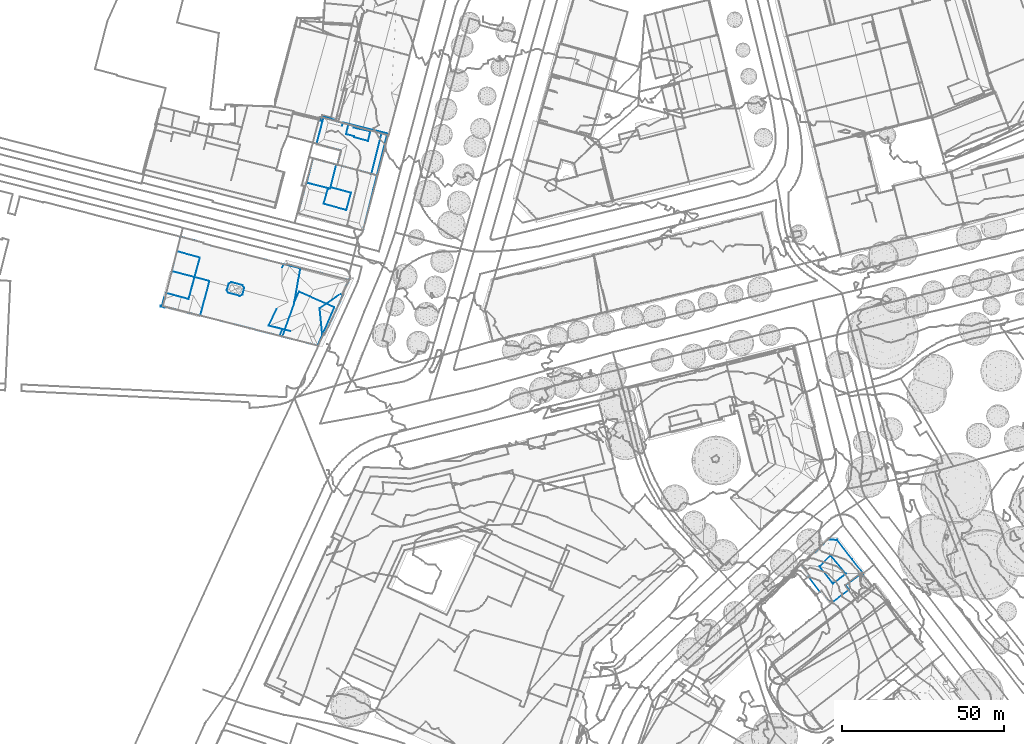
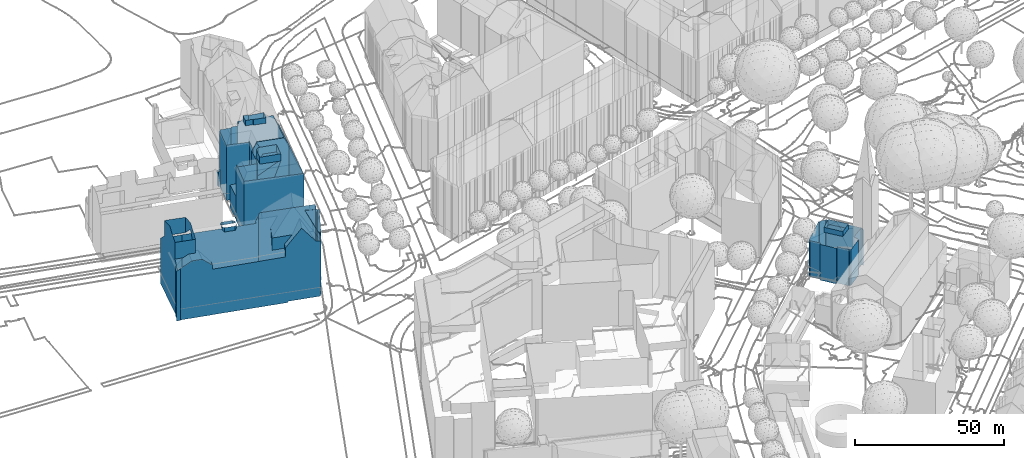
# Not in any storey, part 30 of 477: 4 walls.
"""IFC4 building model written with IfcOpenShell, lengths in metres."""

from ifc_helpers import new_model, si_unit, frame, origin_with_axes, place, context, subcontext, project, spatial, polygons, element, save


model = new_model("IFC4")

# Units and contexts
model_context = context("Model", 3, precision=1e-05, world=origin_with_axes())
body_context = subcontext(model_context, "Body", "Model", "MODEL_VIEW")
ifc_project = project(units=[si_unit("AREAUNIT", "SQUARE_METRE"), si_unit("LENGTHUNIT", "METRE")], contexts=[model_context])

# Sites, building
site_1_placement = place(None, origin_with_axes())
site_1 = spatial("IfcSite", under=ifc_project, at=site_1_placement, Name="Topoexport Site")
site_2_placement = place(site_1_placement, origin_with_axes())
site_2 = spatial("IfcSite", under=site_1, at=site_2_placement, Name="TPX_BUILDINGS")
building_1_placement = place(site_2_placement, frame((145.991732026, 258.2215160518, 530.886), z_axis=(0.0, 0.0, 1.0), x_axis=(1.0, 0.0, 0.0)))
building_1 = spatial("IfcBuilding", under=site_2, at=building_1_placement, Name="Building 154", CompositionType="ELEMENT")

# Wall
wall_1_placement = place(None, frame((145.991732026, 258.2215160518, 530.886), z_axis=(0.0, 0.0, 1.0), x_axis=(1.0, 0.0, 0.0)))
element("IfcWall", 1, at=wall_1_placement, inside=building_1, Name="Wall 0", context=body_context, shape_type="Tessellation", body=[
    polygons([(13.7259999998, -2.8378999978, 16.3534), (13.0780000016, -3.3262000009, 16.3994), (13.7259999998, -2.8378999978, 18.4752), (9.7340000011, -5.8476999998, 18.4752), (9.7340000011, -5.8476999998, 16.3984), (10.2470000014, -5.4609000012, 16.4014), (5.569000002, -0.5507999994, 16.3374), (6.2950000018, 0.1561999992, 16.3314), (5.569000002, -0.5507999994, 18.4752), (9.0309999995, 2.822300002, 18.4752), (9.0309999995, 2.822300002, 16.2155), (8.743999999, 2.5430000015, 16.3024), (9.6840000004, -5.7841999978, 16.4304), (6.2820000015, -1.4580000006, 16.3844), (5.6420000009, -0.6435999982, 16.3794), (9.4670000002, 2.2959000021, 16.4654), (12.8000000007, -1.7216999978, 16.4294), (9.1350000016, 2.697300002, 16.2485), (13.6390000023, -2.7324000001, 16.4104), (0.2190000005, -0.3838, 0.0), (0.2950000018, -0.3125, 0.0), (0.2190000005, -0.3838, 14.7896), (2.5810000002, -3.4189999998, 0.0), (2.5810000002, -3.4189999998, 14.8016), (2.1710000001, -3.7373000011, 14.6026), (2.1710000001, -3.7373000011, 0.0), (5.7950000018, -8.4600000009, 0.0), (5.7950000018, -8.4600000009, 14.6036), (5.9680000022, -8.3251999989, 4.5666), (6.2320000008, -8.120099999, 4.4236), (6.2320000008, -8.120099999, 10.517), (6.2320000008, -8.120099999, 14.8166), (6.2320000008, -8.120099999, 0.0), (0.2950000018, -0.3125, 14.8296), (0.0, 0.0, 3.6907), (0.0, 0.0, 0.0), (8.8980000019, -11.5449000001, 14.7916), (9.1539999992, -11.3466999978, 14.7946), (8.8980000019, -11.5449000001, 11.0929), (9.1539999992, -11.3466999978, 0.0), (8.8980000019, -11.5449000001, 3.6956), (8.8980000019, -11.5449000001, 0.0), (9.443, -11.7188000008, 14.6096), (9.443, -11.7188000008, 0.0), (14.557, -7.8554999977, 0.0), (14.557, -7.8554999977, 14.6396), (14.8000000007, -7.7851999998, 0.0), (14.8000000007, -7.7851999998, 14.6056), (13.7109999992, -6.4257999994, 0.0), (13.7109999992, -6.4257999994, 15.2845), (19.001000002, -3.2509999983, 3.9486), (18.7769999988, -2.9628999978, 10.723), (18.7769999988, -2.9628999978, 0.0), (19.1130000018, -3.3955000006, 0.0), (19.1130000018, -3.3955000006, 14.5476), (18.9869999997, -3.5205000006, 0.0), (18.5789999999, -2.7753999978, 0.0), (18.9869999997, -3.5205000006, 14.5446), (18.5789999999, -2.7753999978, 14.9356), (10.9620000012, 7.6942999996, 0.0), (10.9790000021, 7.6709000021, 3.6957), (10.9620000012, 7.6942999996, 14.7736), (10.8040000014, 7.5713, 0.0), (10.8040000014, 7.5713, 14.8126), (8.5329999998, 7.7754000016, 0.0), (8.8370000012, -11.4657999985, 14.8316), (8.4140000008, -10.9228999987, 14.8266), (19.0830000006, -2.7245999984, 0.0), (19.057, -2.745099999, 14.7936), (19.0830000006, -2.7245999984, 14.7816), (18.7769999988, -2.9628999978, 14.8066), (0.0, 0.0, 11.1059), (0.0500000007, 0.0469000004, 14.8386), (0.0, 0.0, 14.8126), (7.8339999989, 7.3916000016, 0.0), (8.3960000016, 7.9209000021, 7.3663), (8.3960000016, 7.9209000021, 11.069), (8.3960000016, 7.9209000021, 14.7716), (8.1720000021, 7.7098999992, 14.8376), (7.8339999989, 7.3916000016, 14.8386), (8.3960000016, 7.9209000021, 0.0), (11.4350000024, 7.0879000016, 14.8096), (10.9800000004, 7.6699000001, 14.7796), (10.9800000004, 7.6709000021, 11.084), (15.5980000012, 1.746100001, 0.0), (11.0199999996, 7.6191000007, 14.8066), (15.5980000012, 1.746100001, 14.7896), (11.4350000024, 7.0879000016, 0.0), (8.5329999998, 7.7754000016, 14.8096)], [[[3, 2, 1]], [[2, 3, 4]], [[6, 4, 5]], [[4, 6, 2]], [[9, 8, 7]], [[8, 9, 10]], [[12, 10, 11]], [[10, 12, 8]], [[4, 13, 5]], [[13, 4, 14]], [[14, 9, 15]], [[9, 14, 4]], [[7, 15, 9]], [[10, 16, 11]], [[16, 10, 17]], [[18, 11, 16]], [[17, 3, 19]], [[3, 17, 10]], [[1, 19, 3]], [[22, 21, 20]], [[24, 22, 23]], [[22, 20, 23]], [[26, 25, 24]], [[24, 23, 26]], [[28, 25, 27]], [[27, 25, 26]], [[30, 28, 29]], [[32, 28, 31]], [[33, 30, 29]], [[27, 29, 28]], [[29, 27, 33]], [[35, 21, 34]], [[21, 35, 36]], [[39, 38, 37]], [[41, 40, 39]], [[41, 42, 40]], [[44, 43, 40]], [[46, 44, 45]], [[44, 46, 43]], [[48, 45, 47]], [[50, 48, 49]], [[53, 52, 51]], [[55, 54, 51]], [[51, 54, 53]], [[58, 57, 56]], [[54, 55, 58]], [[56, 54, 58]], [[59, 49, 57]], [[62, 61, 60]], [[64, 60, 63]], [[64, 63, 65]], [[37, 66, 39]], [[41, 39, 31]], [[67, 39, 66]], [[67, 32, 31]], [[41, 30, 42]], [[41, 31, 30]], [[30, 33, 42]], [[39, 67, 31]], [[53, 68, 52]], [[70, 69, 52]], [[71, 52, 69]], [[70, 52, 68]], [[74, 73, 72]], [[36, 35, 75]], [[76, 35, 72]], [[77, 72, 73]], [[80, 79, 78]], [[78, 77, 80]], [[77, 76, 72]], [[75, 35, 76]], [[75, 76, 81]], [[73, 80, 77]], [[84, 83, 82]], [[85, 61, 84]], [[83, 86, 82]], [[87, 70, 85]], [[85, 84, 87]], [[60, 61, 88]], [[88, 61, 85]], [[70, 68, 85]], [[84, 82, 87]], [[22, 34, 21]], [[31, 28, 30]], [[34, 72, 35]], [[74, 72, 34]], [[40, 38, 39]], [[38, 40, 43]], [[46, 45, 48]], [[48, 47, 49]], [[71, 55, 52]], [[52, 55, 51]], [[59, 57, 58]], [[50, 49, 59]], [[62, 84, 61]], [[83, 84, 62]], [[62, 60, 64]], [[65, 89, 64]], [[77, 89, 65]], [[89, 77, 78]], [[76, 77, 65]], [[65, 81, 76]]]),
])

# Building
building_2_placement = place(site_2_placement, frame((-52.3232679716, 338.0819160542, 533.653), z_axis=(0.0, 0.0, 1.0), x_axis=(1.0, 0.0, 0.0)))
building_2 = spatial("IfcBuilding", under=site_2, at=building_2_placement, Name="Building 167", CompositionType="ELEMENT")

# Wall
wall_2_placement = place(None, frame((-52.3232679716, 338.0819160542, 533.653), z_axis=(0.0, 0.0, 1.0), x_axis=(1.0, 0.0, 0.0)))
element("IfcWall", 2, at=wall_2_placement, inside=building_2, Name="Wall 0", context=body_context, shape_type="Tessellation", body=[
    polygons([(25.9210000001, 5.7498999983, 27.5864), (25.7249999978, 5.0252999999, 28.2463), (25.9210000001, 5.7498999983, 28.2473), (25.3789999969, 6.557599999, 27.0214), (25.3789999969, 6.557599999, 28.2473), (6.2289999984, 21.5037999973, 13.9847), (7.8369999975, 21.0936999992, 18.6153), (6.2289999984, 21.5037999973, 18.6293), (43.2639999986, 11.7244999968, 0.051), (41.4179999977, 1.3250999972, 1.1769), (43.2639999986, 11.7244999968, 1.1769), (41.4179999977, 1.3250999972, 0.5519), (41.3399999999, 0.8846999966, 0.051), (41.3399999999, 0.8846999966, 0.5519), (39.0649999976, 12.8387999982, 0.051), (39.0649999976, 12.8387999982, 1.1769), (39.0429999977, 12.7547999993, 0.051), (13.2869999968, 19.3934999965, 0.051), (13.3539999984, 19.6571999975, 18.5933), (13.3539999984, 19.6571999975, 0.051), (13.2869999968, 19.3934999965, 18.8322), (10.4239999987, 20.4334999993, 0.051), (10.4239999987, 20.4334999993, 18.5933), (21.8259999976, 7.5194999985, 27.0044), (21.8259999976, 7.5194999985, 28.2473), (1.4229999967, 2.5770999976, 0.0), (1.1609999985, 2.6434999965, 20.5351), (1.1609999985, 2.6434999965, 0.0), (1.4229999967, 2.5770999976, 15.5165), (1.4229999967, 2.5770999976, 10.345), (0.5379999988, 0.1307999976, 0.0), (0.5379999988, 0.1307999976, 20.5591), (0.0659999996, 0.2469999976, 20.2811), (0.0659999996, 0.2469999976, 0.0), (0.0, 0.0, 0.0), (0.0, 0.0, 20.2811), (1.2339999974, -0.3331000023, 0.0), (1.2339999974, -0.3331000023, 21.011), (1.2449999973, -0.0499000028, 20.976), (1.2449999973, -0.0499000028, 15.7225), (1.2449999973, -0.0499000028, 0.0), (1.2449999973, -0.0499000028, 10.47), (12.2969999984, -2.8692000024, 20.2811), (12.7779999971, -1.0557000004, 20.2811), (12.3039999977, -2.8438000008, 18.6792), (12.2960000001, -2.8712000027, 18.6522), (15.1349999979, 7.8338999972, 0.051), (15.1349999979, 7.8338999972, 0.0), (12.2960000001, -2.8712000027, 0.051), (5.0939999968, 17.0340999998, 22.6869), (12.175999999, 15.1170999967, 22.7199), (5.0939999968, 17.0340999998, 28.9983), (8.6959999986, 2.2694999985, 23.3848), (6.3899999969, 2.8944999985, 23.3848), (8.6959999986, 2.2694999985, 28.9982), (1.818, 4.1336999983, 28.9983), (1.818, 4.1336999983, 22.1929), (4.3549999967, 3.4461999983, 22.1809), (25.3599999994, 3.677699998, 27.0374), (24.5409999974, 3.2498999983, 28.2473), (25.3599999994, 3.677699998, 28.2473), (24.5409999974, 3.2498999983, 26.4975), (20.9469999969, 4.2049999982, 26.4985), (53.7879999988, -0.2413000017, 0.5519), (53.7879999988, -0.2413000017, 1.1769), (42.8319999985, 4.5037999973, 1.1769), (48.6349999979, -12.1417000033, 1.1769), (58.4109999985, 8.120099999, 22.2489), (58.4109999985, 8.120099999, 1.1769), (57.3829999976, 5.9461999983, 22.3178), (56.3909999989, 3.8485999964, 1.1769), (56.3909999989, 3.8485999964, 22.3838), (58.3827999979, 8.1268999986, 1.1769), (58.3759999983, 8.128899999, 17.0684), (58.3640000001, 8.1317999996, 22.3698), (58.3640000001, 8.1317999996, 6.4754), (39.117999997, 13.0457999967, 16.4264), (48.8029999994, -12.1846000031, 6.6033), (49.4579999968, -10.8018000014, 22.8588), (50.5529999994, -8.4932000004, 1.1769), (48.8029999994, -12.1846000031, 22.9068), (48.8029999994, -12.1846000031, 17.4743), (48.8029999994, -12.1846000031, 12.0418), (48.8029999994, -12.1846000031, 1.1769), (37.7029999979, -9.3536000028, 0.051), (37.7029999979, -9.3536000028, 0.5519), (37.7039999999, -7.0235000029, 20.819), (36.7739999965, -9.1153000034, 22.5208), (36.7739999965, -9.1153000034, 18.8612), (37.7039999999, -7.0235000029, 22.5488), (20.5059999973, 4.9930999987, 27.0604), (20.9469999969, 4.2049999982, 28.2473), (20.8640000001, 6.3143999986, 28.2463), (20.5059999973, 4.9930999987, 28.2473), (21.0669999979, 7.0662999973, 27.5604), (21.0669999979, 7.0662999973, 28.2473), (3.5389999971, 10.9090999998, 0.0), (3.5389999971, 10.9090999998, 0.051), (12.175999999, 15.1170999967, 28.9983), (10.5339999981, 9.0535999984, 28.2463), (10.4619999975, 8.7899999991, 31.225), (9.0659999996, 3.6356999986, 23.3848), (42.8319999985, 4.5037999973, 0.5519), (3.4809999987, 10.6805999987, 31.225), (1.4229999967, 2.5770999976, 20.689), (1.3909999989, 2.4520999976, 20.69), (6.2289999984, 21.5037999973, 9.3401), (6.2289999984, 21.5037999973, 0.051), (47.1309999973, -11.7579000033, 23.3067), (42.2589999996, -10.5167000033, 29.5432), (48.060999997, -11.9952000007, 23.1947), (37.7029999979, -9.3536000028, 18.8682), (31.6529999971, -7.8106000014, 18.8172), (48.7039999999, -12.1592000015, 23.1648), (48.7039999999, -12.1592000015, 1.1769), (42.2589999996, -10.5167000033, 0.5519), (5.3329999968, -1.0928000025, 23.3848), (8.7599999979, -1.9669000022, 23.3848), (8.7599999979, -1.9669000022, 0.0), (5.3329999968, -1.0928000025, 0.0), (21.5749999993, -5.2383000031, 18.7312), (48.6349999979, -12.1417000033, 0.5519), (12.2969999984, -2.8692000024, 0.0), (38.0779999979, 13.0037999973, 18.6762), (38.561999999, 12.8787999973, 20.649), (38.0779999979, 13.0037999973, 19.6121), (50.4100000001, -8.7950000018, 22.7898), (50.5529999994, -8.4932000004, 24.0107), (50.5529999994, -8.4932000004, 20.233), (50.4100000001, -8.7950000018, 23.7887), (50.8229999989, -8.6231000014, 1.1769), (39.5859999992, 12.9266999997, 22.5638), (39.117999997, 13.0457999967, 21.5609), (39.117999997, 13.0457999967, 6.1844), (39.5859999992, 12.9266999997, 1.1769), (39.117999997, 13.0457999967, 1.1769), (53.8049999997, -2.3028000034, 28.1913), (53.4799999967, -2.9932000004, 28.1063), (53.6739999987, -2.5801000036, 28.4053), (54.5039999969, -0.822300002, 27.0314), (54.5039999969, -0.822300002, 21.7809), (52.2799999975, -5.5352000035, 21.9189), (50.8229999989, -8.6231000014, 23.9907), (39.0429999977, 12.7547999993, 21.6799), (54.8989999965, 0.0155999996, 15.7775), (55.1939999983, 0.6405999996, 21.7379), (56.6509999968, 3.7284999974, 21.6479), (56.6509999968, 3.7284999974, 1.1769), (55.1939999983, 0.6405999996, 1.1769), (37.6169999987, 12.0243999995, 19.6121), (33.4780000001, -5.9571000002, 20.774), (36.0079999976, -0.5821000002, 25.8345), (33.4780000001, -5.9571000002, 25.8345), (56.3699999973, 3.4090999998, 23.7627), (56.3699999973, 3.4090999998, 21.9609), (55.5729999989, 3.7811999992, 23.8117), (55.8249999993, 3.6629999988, 23.5067), (50.1569999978, -8.6768000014, 23.5067), (50.0409999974, -8.6231000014, 23.6467), (50.0409999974, -8.6231000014, 23.8127), (52.6229999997, 1.7782999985, 25.8345), (49.2419999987, -0.5303000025, 28.4053), (49.2419999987, -0.5303000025, 28.2263), (55.3269999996, 3.6229999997, 23.9847), (49.6529999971, -4.6895000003, 25.8345), (40.2739999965, -7.6710000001, 25.8345), (8.5859999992, 20.9032999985, 0.051)], [[[3, 2, 1]], [[5, 1, 4]], [[8, 7, 6]], [[11, 10, 9]], [[9, 10, 12]], [[12, 14, 13]], [[12, 13, 9]], [[16, 9, 15]], [[9, 16, 11]], [[15, 17, 16]], [[20, 19, 18]], [[21, 18, 19]], [[23, 19, 22]], [[22, 19, 20]], [[25, 4, 24]], [[28, 27, 26]], [[30, 27, 29]], [[32, 28, 31]], [[34, 33, 31]], [[32, 31, 33]], [[36, 34, 35]], [[38, 36, 37]], [[36, 35, 37]], [[37, 40, 39]], [[42, 37, 41]], [[38, 37, 39]], [[45, 44, 43]], [[43, 46, 45]], [[49, 48, 47]], [[52, 51, 50]], [[55, 54, 53]], [[54, 55, 56]], [[58, 56, 57]], [[56, 58, 54]], [[61, 60, 59]], [[60, 63, 62]], [[66, 65, 64]], [[65, 67, 64]], [[70, 69, 68]], [[70, 71, 69]], [[70, 72, 71]], [[74, 68, 73]], [[75, 68, 74]], [[77, 74, 76]], [[68, 69, 73]], [[80, 79, 78]], [[82, 79, 81]], [[83, 79, 82]], [[78, 84, 80]], [[13, 14, 85]], [[86, 85, 14]], [[89, 88, 87]], [[90, 87, 88]], [[2, 61, 59]], [[92, 91, 63]], [[94, 93, 91]], [[93, 96, 95]], [[95, 96, 25]], [[25, 24, 95]], [[97, 47, 48]], [[47, 97, 98]], [[101, 100, 99]], [[51, 99, 100]], [[100, 55, 102]], [[55, 100, 101]], [[53, 102, 55]], [[12, 10, 103]], [[66, 103, 10]], [[56, 104, 57]], [[29, 57, 50]], [[104, 50, 57]], [[106, 57, 105]], [[57, 29, 105]], [[30, 29, 6]], [[52, 50, 104]], [[50, 8, 6]], [[107, 98, 30]], [[30, 6, 107]], [[98, 107, 108]], [[26, 30, 98]], [[98, 97, 26]], [[6, 29, 50]], [[110, 88, 109]], [[109, 82, 111]], [[109, 88, 112]], [[112, 86, 83]], [[113, 86, 112]], [[89, 112, 88]], [[82, 109, 112]], [[114, 111, 81]], [[81, 111, 82]], [[83, 82, 112]], [[78, 67, 115]], [[116, 78, 83]], [[115, 84, 78]], [[116, 67, 78]], [[118, 117, 46]], [[46, 43, 118]], [[117, 40, 46]], [[39, 40, 117]], [[46, 42, 119]], [[40, 42, 46]], [[120, 42, 41]], [[86, 116, 83]], [[86, 121, 49]], [[122, 67, 116]], [[113, 121, 86]], [[49, 121, 46]], [[49, 85, 86]], [[123, 49, 119]], [[46, 119, 49]], [[42, 120, 119]], [[126, 125, 124]], [[129, 128, 127]], [[127, 128, 130]], [[128, 129, 131]], [[133, 132, 77]], [[77, 76, 134]], [[136, 134, 135]], [[132, 74, 77]], [[135, 76, 73]], [[135, 134, 76]], [[74, 132, 75]], [[139, 138, 137]], [[137, 138, 140]], [[140, 138, 141]], [[138, 142, 141]], [[142, 143, 131]], [[143, 142, 138]], [[21, 17, 18]], [[124, 17, 21]], [[125, 144, 17]], [[124, 125, 17]], [[129, 80, 131]], [[131, 145, 142]], [[146, 141, 145]], [[131, 147, 145]], [[142, 145, 141]], [[146, 145, 147]], [[149, 148, 147]], [[147, 131, 149]], [[17, 144, 133]], [[77, 17, 133]], [[134, 16, 77]], [[134, 136, 16]], [[150, 126, 124]], [[153, 152, 151]], [[155, 154, 140]], [[140, 141, 155]], [[157, 156, 154]], [[154, 155, 157]], [[130, 158, 127]], [[160, 159, 158]], [[160, 158, 130]], [[163, 162, 161]], [[164, 161, 162]], [[159, 160, 165]], [[165, 162, 163]], [[162, 165, 160]], [[90, 166, 153]], [[90, 151, 87]], [[151, 90, 153]], [[3, 1, 5]], [[107, 167, 108]], [[7, 107, 6]], [[7, 167, 107]], [[167, 7, 23]], [[167, 23, 22]], [[5, 4, 25]], [[27, 105, 29]], [[26, 27, 30]], [[27, 28, 32]], [[33, 34, 36]], [[42, 40, 37]], [[123, 48, 49]], [[99, 51, 52]], [[60, 62, 59]], [[92, 63, 60]], [[64, 103, 66]], [[67, 122, 64]], [[72, 148, 71]], [[148, 72, 147]], [[74, 73, 76]], [[79, 129, 127]], [[80, 129, 79]], [[78, 79, 83]], [[94, 91, 92]], [[131, 143, 128]], [[17, 77, 16]]]),
])

# Building
building_3_placement = place(site_2_placement, frame((-4.0472679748, 388.3377160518, 535.5509), z_axis=(0.0, 0.0, 1.0), x_axis=(1.0, 0.0, 0.0)))
building_3 = spatial("IfcBuilding", under=site_2, at=building_3_placement, Name="Building 233", CompositionType="ELEMENT")

# Wall
wall_3_placement = place(None, frame((-4.0472679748, 388.3377160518, 535.5509), z_axis=(0.0, 0.0, 1.0), x_axis=(1.0, 0.0, 0.0)))
element("IfcWall", 3, at=wall_3_placement, inside=building_3, Name="Wall 0", context=body_context, shape_type="Tessellation", body=[
    polygons([(8.1500000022, 6.6464999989, 25.4786), (7.870000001, 5.5166000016, 25.4786), (8.0990000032, 6.4404000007, 23.7748), (8.0990000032, 6.4404000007, 15.9275), (8.1500000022, 6.6464999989, 0.0001), (8.0990000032, 6.4404000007, 0.911), (8.0990000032, 6.4404000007, 0.0001), (1.1340000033, 8.3192999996, 0.819), (2.1300000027, 8.0498000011, 7.0344), (1.1340000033, 8.3192999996, 7.0344), (1.0980000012, 7.2334000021, 0.819), (1.0980000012, 7.2334000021, 7.0344), (1.8550000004, 7.0078000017, 0.819), (1.8550000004, 7.0078000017, 7.0344), (21.8859999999, 3.2362999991, 0.0001), (18.6650000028, -9.7353000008, 21.9948), (21.8859999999, 3.2362999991, 21.995), (20.1870000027, 3.6581999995, 25.2956), (16.9740000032, -9.2811999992, 25.4785), (20.1870000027, 3.6581999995, 25.4786), (6.4869999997, -6.4716999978, 22.8108), (6.4869999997, -6.4716999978, 17.0683), (6.7820000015, -5.3671999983, 8.4951), (6.4869999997, -6.4716999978, -0.0001), (6.4869999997, -6.4716999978, 11.3269), (7.6670000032, -2.0537, -0.0001), (7.6670000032, -2.0537, 22.9678), (7.6670000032, -2.0537, 17.2263), (7.6670000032, -2.0537, 11.4839), (7.6670000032, -2.0537, 5.7424), (0.0, 0.0, 6.2254), (1.5, 5.6689000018, 22.4989), (0.0, 0.0, 19.1221), (0.0, 0.0, 0.0), (1.2420000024, 4.6933999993, 0.0001), (2.2080000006, 8.3427999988, 22.5709), (2.1300000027, 8.0498000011, 0.819), (2.2080000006, 8.3427999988, 0.0001), (2.2080000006, 8.3427999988, 3.2248), (5.9570000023, 7.3311000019, 0.0001), (5.8900000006, 7.1132999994, 17.6334), (5.9570000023, 7.3311000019, 23.1499), (5.8900000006, 7.1132999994, 11.711), (5.8670000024, 7.0419999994, 13.2808), (5.8670000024, 7.0410000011, 23.6928), (5.8900000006, 7.1132999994, 5.7875), (5.8670000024, 7.0419999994, 5.4805), (5.8670000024, 7.0419000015, 0.819), (5.8669000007, 7.0406999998, 0.0001), (11.6750000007, 2.3682000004, 25.4785), (9.1510000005, 2.9882999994, 27.6224), (11.6750000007, 2.3682000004, 27.7023), (11.5090000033, 5.0390999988, 25.4786), (12.2939999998, 4.8467000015, 25.4786), (11.5090000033, 5.0390999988, 27.6224), (9.8790000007, 5.9600000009, 25.4786), (11.620000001, 5.4912, 25.4786), (9.8790000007, 5.9600000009, 27.6224), (9.5560000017, 4.9618999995, 25.4786), (9.1510000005, 2.9882999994, 25.4786), (11.620000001, 5.4912, 27.6224), (16.6560000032, 3.8612999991, 25.4786), (12.2939999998, 4.8467000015, 27.7024), (15.9140000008, 0.8984000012, 27.7823), (16.6560000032, 3.8612999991, 27.7824), (11.5880000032, 2.0604999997, 25.4785), (11.5880000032, 2.0604999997, 27.7823), (15.9140000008, 0.8984000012, 25.4785), (6.9830000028, 6.7402000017, 10.3601), (6.4250000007, 6.8905999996, 17.7694), (6.4250000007, 6.8905999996, 11.8259), (6.4250000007, 6.8905999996, 5.8825), (6.4250000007, 6.8905999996, 23.7128), (7.5410000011, 6.5898000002, 14.8387), (7.5410000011, 6.5898000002, 5.9235), (20.1870000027, 3.6581999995, 0.0001), (7.8080000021, -6.8262000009, 25.4785), (16.9740000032, -9.2811999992, 25.2955), (7.8080000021, -6.8262000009, -0.0001), (18.6650000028, -9.7353000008, -0.0001), (16.9740000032, -9.2811999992, -0.0001), (2.4630000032, 8.2743999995, 23.0179), (0.0, 0.0, 22.3468), (0.1579999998, -0.0419999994, 22.6238), (7.3990000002, -1.9824000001, 22.4248), (0.1579999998, -0.0419999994, 0.0), (9.5560000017, 4.9618999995, 27.6224)], [[[3, 2, 1]], [[4, 3, 1]], [[5, 4, 1]], [[5, 6, 4]], [[6, 5, 7]], [[10, 9, 8]], [[12, 10, 11]], [[14, 11, 13]], [[11, 14, 12]], [[17, 16, 15]], [[20, 19, 18]], [[23, 22, 21]], [[25, 23, 24]], [[23, 21, 26]], [[23, 26, 24]], [[28, 21, 27]], [[29, 21, 28]], [[21, 30, 26]], [[33, 32, 31]], [[31, 32, 34]], [[32, 35, 34]], [[32, 9, 14]], [[9, 32, 36]], [[32, 13, 35]], [[13, 32, 14]], [[13, 37, 35]], [[35, 37, 38]], [[39, 9, 36]], [[42, 41, 40]], [[41, 44, 43]], [[45, 44, 41]], [[43, 47, 46]], [[47, 48, 46]], [[48, 49, 46]], [[46, 49, 40]], [[52, 51, 50]], [[55, 54, 53]], [[58, 57, 56]], [[59, 58, 56]], [[51, 59, 60]], [[61, 55, 57]], [[63, 62, 54]], [[65, 64, 62]], [[67, 52, 66]], [[64, 67, 68]], [[71, 70, 69]], [[72, 71, 69]], [[44, 45, 70]], [[73, 69, 70]], [[71, 44, 70]], [[44, 71, 47]], [[72, 48, 47]], [[49, 48, 72]], [[72, 69, 49]], [[74, 3, 4]], [[74, 4, 75]], [[75, 4, 6]], [[69, 75, 7]], [[6, 7, 75]], [[69, 7, 49]], [[5, 1, 18]], [[18, 1, 20]], [[18, 17, 76]], [[15, 76, 17]], [[18, 76, 5]], [[19, 77, 22]], [[25, 78, 19]], [[25, 16, 78]], [[21, 22, 77]], [[25, 24, 79]], [[79, 16, 25]], [[81, 80, 16]], [[16, 79, 81]], [[19, 22, 25]], [[42, 40, 36]], [[40, 39, 36]], [[39, 40, 38]], [[42, 36, 82]], [[84, 83, 33]], [[84, 33, 85]], [[27, 85, 28]], [[28, 85, 33]], [[28, 33, 29]], [[31, 29, 33]], [[31, 30, 29]], [[86, 31, 34]], [[86, 26, 30]], [[30, 31, 86]], [[9, 37, 8]], [[10, 8, 11]], [[16, 80, 15]], [[19, 78, 18]], [[25, 22, 23]], [[29, 30, 21]], [[33, 83, 32]], [[37, 9, 39]], [[39, 38, 37]], [[40, 41, 43]], [[40, 43, 46]], [[45, 41, 42]], [[44, 47, 43]], [[51, 60, 50]], [[63, 54, 55]], [[61, 57, 58]], [[87, 58, 59]], [[87, 59, 51]], [[55, 53, 57]], [[65, 62, 63]], [[64, 68, 62]], [[52, 50, 66]], [[67, 66, 68]], [[69, 74, 75]], [[73, 70, 45]], [[3, 69, 73]], [[71, 72, 47]], [[69, 3, 74]]]),
])

# Building
building_4_placement = place(site_2_placement, frame((-9.7142679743, 366.807416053, 535.5508), z_axis=(0.0, 0.0, 1.0), x_axis=(1.0, 0.0, 0.0)))
building_4 = spatial("IfcBuilding", under=site_2, at=building_4_placement, Name="Building 235", CompositionType="ELEMENT")

# Wall
wall_4_placement = place(None, frame((-9.7142679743, 366.807416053, 535.5508), z_axis=(0.0, 0.0, 1.0), x_axis=(1.0, 0.0, 0.0)))
element("IfcWall", 4, at=wall_4_placement, inside=building_4, Name="Wall 0", context=body_context, shape_type="Tessellation", body=[
    polygons([(20.0590000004, -5.3524999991, 22.0229), (20.3120000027, -4.3955000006, 21.9949), (20.0590000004, -5.3524999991, 5.5055), (24.3320000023, 11.7949000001, 0.0), (20.3120000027, -4.3955000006, 0.0), (24.3320000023, 11.7949000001, 21.9949), (9.8980000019, 7.7069999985, 0.0), (11.7369999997, 15.1103999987, 0.057), (9.8980000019, 7.7071000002, 0.057), (2.5439999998, 9.5331999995, 0.0), (2.688000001, 9.4970999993, 9.5111), (2.5439999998, 9.5331999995, 21.9949), (9.620000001, 7.7763999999, 21.9949), (2.688000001, 9.4970999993, 0.057), (16.3330000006, 6.3975000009, 25.2956), (14.876000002, 1.0830000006, 28.2603), (16.3330000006, 6.3975000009, 28.3243), (11.7250000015, 7.6552999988, 25.2956), (10.0859999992, 8.1035000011, 28.2203), (10.0859999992, 8.1035000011, 22.1559), (9.0879999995, 7.4023999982, 28.1973), (9.0879999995, 7.4023999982, 22.9159), (9.620000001, 7.7763999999, 9.5111), (9.9770000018, 8.0273999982, 21.9949), (8.7410000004, 6.1816999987, 25.2956), (7.8379999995, 3.0029999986, 28.1433), (7.8379999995, 3.0029999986, 25.2956), (14.876000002, 1.0830000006, 25.2956), (9.9770000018, 8.0273999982, 9.5111), (11.7369999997, 15.1103999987, 9.5111), (12.1539999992, 15.058600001, 0.0), (12.1469999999, 15.0331999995, 11.383), (12.1390000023, 15.0018999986, 0.0), (12.1539999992, 15.058600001, 11.383), (12.1539999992, 15.058600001, 5.6915), (4.5540000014, 17.0351999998, 9.5111), (0.0, 0.0, 0.0), (20.0590000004, -5.3524999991, 0.0), (0.0, 0.0, 22.8499), (19.9059999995, -5.3115000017, 22.3209), (4.5540000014, 17.0351999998, 0.057), (11.7369999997, 15.1103999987, 0.0), (12.1390000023, 15.0020000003, 22.7659), (11.7369999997, 15.1103999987, 21.9949), (0.0260000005, 0.0966999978, 22.9958), (2.3720000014, 8.8876999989, 23.2498), (2.3720000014, 8.8876999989, 0.0), (0.0260000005, 0.0966999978, 0.0), (13.4750000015, 14.7040999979, 0.0), (22.6410000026, 12.2480999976, 0.0), (13.4750000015, 14.7040999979, 25.2956), (12.1539999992, 15.058600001, 22.7669), (22.6410000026, 12.2480999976, 25.2956)], [[[3, 2, 1]], [[6, 5, 4]], [[5, 6, 2]], [[9, 8, 7]], [[12, 11, 10]], [[13, 11, 12]], [[10, 14, 7]], [[14, 10, 11]], [[7, 14, 9]], [[17, 16, 15]], [[20, 19, 18]], [[18, 17, 15]], [[17, 18, 19]], [[22, 21, 13]], [[13, 24, 23]], [[21, 19, 13]], [[19, 20, 24]], [[19, 24, 13]], [[27, 26, 25]], [[25, 21, 22]], [[21, 25, 26]], [[16, 26, 28]], [[24, 30, 29]], [[33, 32, 31]], [[35, 32, 34]], [[35, 31, 32]], [[11, 36, 14]], [[38, 3, 37]], [[3, 1, 37]], [[40, 39, 1]], [[39, 37, 1]], [[8, 41, 30]], [[42, 8, 33]], [[30, 33, 8]], [[30, 41, 36]], [[43, 33, 30]], [[30, 44, 43]], [[46, 12, 45]], [[39, 45, 12]], [[12, 47, 39]], [[48, 39, 47]], [[37, 39, 48]], [[47, 12, 10]], [[31, 35, 49]], [[35, 50, 49]], [[4, 50, 34]], [[50, 35, 34]], [[6, 52, 51]], [[6, 4, 52]], [[6, 51, 53]], [[52, 4, 34]], [[5, 2, 38]], [[38, 2, 3]], [[8, 42, 7]], [[23, 11, 13]], [[16, 28, 15]], [[24, 29, 23]], [[26, 27, 28]], [[44, 30, 24]], [[52, 32, 43]], [[33, 43, 32]], [[52, 34, 32]], [[36, 41, 14]]]),
])

save(model, "model.ifc")
